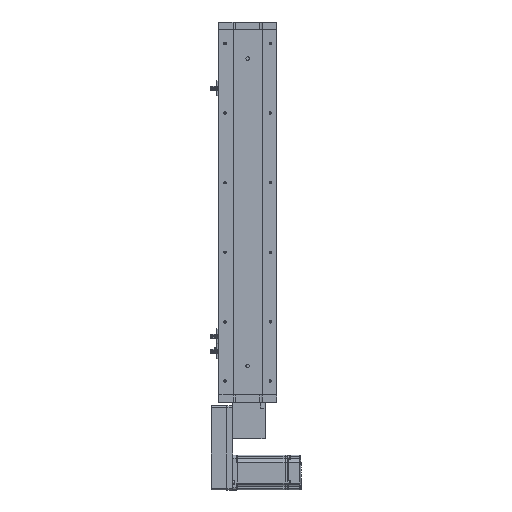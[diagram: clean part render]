
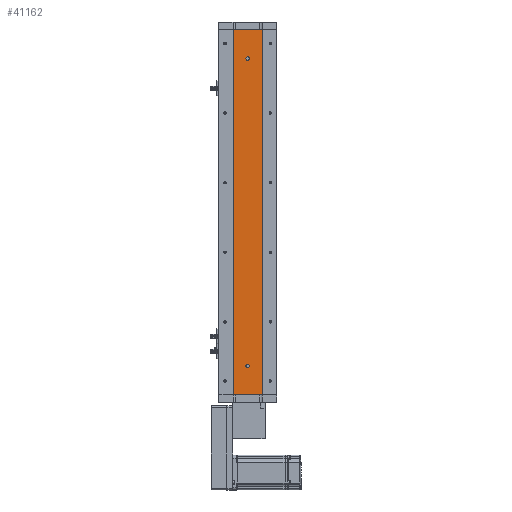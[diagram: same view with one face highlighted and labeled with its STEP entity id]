
A CAD part, left-side view. The second image highlights one B-rep face of the part: STEP entity #41162.
In plain terms, the highlighted planar face has unit normal (-1, 0, 0).
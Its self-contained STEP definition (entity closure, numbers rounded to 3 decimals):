
#302 = FACE_BOUND ( 'NONE', #63218, .T. ) ;
#2479 = CARTESIAN_POINT ( 'NONE',  ( -18.926, 0., 580. ) ) ;
#4601 = CARTESIAN_POINT ( 'NONE',  ( -18.926, 0., 577. ) ) ;
#6039 = CARTESIAN_POINT ( 'NONE',  ( -18.926, -24.785, 630. ) ) ;
#7432 = DIRECTION ( 'NONE',  ( 0., 0., 1. ) ) ;
#8044 = CIRCLE ( 'NONE', #35054, 3. ) ;
#8902 = CARTESIAN_POINT ( 'NONE',  ( -18.926, -24.785, 630. ) ) ;
#9004 = VERTEX_POINT ( 'NONE', #48292 ) ;
#9538 = EDGE_CURVE ( 'NONE', #58661, #9004, #18769, .T. ) ;
#10998 = CARTESIAN_POINT ( 'NONE',  ( -18.926, -24.785, 0. ) ) ;
#12134 = VERTEX_POINT ( 'NONE', #26313 ) ;
#12754 = VECTOR ( 'NONE', #16028, 1000. ) ;
#13037 = ORIENTED_EDGE ( 'NONE', *, *, #54193, .F. ) ;
#13505 = FACE_BOUND ( 'NONE', #14790, .T. ) ;
#14611 = DIRECTION ( 'NONE',  ( 0., -1., 0. ) ) ;
#14786 = AXIS2_PLACEMENT_3D ( 'NONE', #48503, #18764, #53485 ) ;
#14790 = EDGE_LOOP ( 'NONE', ( #56359, #36613 ) ) ;
#14814 = CARTESIAN_POINT ( 'NONE',  ( -18.926, 24.785, 630. ) ) ;
#15303 = CARTESIAN_POINT ( 'NONE',  ( -18.926, 0., 583. ) ) ;
#15576 = CIRCLE ( 'NONE', #53138, 3. ) ;
#16028 = DIRECTION ( 'NONE',  ( 0., 0., -1. ) ) ;
#18110 = EDGE_CURVE ( 'NONE', #9004, #36853, #28637, .T. ) ;
#18764 = DIRECTION ( 'NONE',  ( 1., 0., 0. ) ) ;
#18769 = LINE ( 'NONE', #62557, #30424 ) ;
#22392 = DIRECTION ( 'NONE',  ( -1., 0., 0. ) ) ;
#24498 = ORIENTED_EDGE ( 'NONE', *, *, #18110, .T. ) ;
#24979 = VERTEX_POINT ( 'NONE', #15303 ) ;
#25530 = DIRECTION ( 'NONE',  ( -1., 0., 0. ) ) ;
#26313 = CARTESIAN_POINT ( 'NONE',  ( -18.926, 0., 53. ) ) ;
#26357 = AXIS2_PLACEMENT_3D ( 'NONE', #56528, #26758, #61498 ) ;
#26673 = FACE_OUTER_BOUND ( 'NONE', #29717, .T. ) ;
#26758 = DIRECTION ( 'NONE',  ( -1., 0., 0. ) ) ;
#27052 = VECTOR ( 'NONE', #30596, 1000. ) ;
#27094 = AXIS2_PLACEMENT_3D ( 'NONE', #52104, #22392, #57098 ) ;
#27292 = VERTEX_POINT ( 'NONE', #52201 ) ;
#28127 = VERTEX_POINT ( 'NONE', #8902 ) ;
#28637 = LINE ( 'NONE', #60291, #27052 ) ;
#29717 = EDGE_LOOP ( 'NONE', ( #24498, #13037, #34224, #38410 ) ) ;
#30257 = VERTEX_POINT ( 'NONE', #4601 ) ;
#30424 = VECTOR ( 'NONE', #32842, 1000. ) ;
#30490 = EDGE_CURVE ( 'NONE', #12134, #27292, #56310, .T. ) ;
#30596 = DIRECTION ( 'NONE',  ( 0., -1., 0. ) ) ;
#32842 = DIRECTION ( 'NONE',  ( 0., 0., -1. ) ) ;
#34224 = ORIENTED_EDGE ( 'NONE', *, *, #55120, .F. ) ;
#35054 = AXIS2_PLACEMENT_3D ( 'NONE', #2479, #37170, #7432 ) ;
#36613 = ORIENTED_EDGE ( 'NONE', *, *, #38869, .F. ) ;
#36853 = VERTEX_POINT ( 'NONE', #10998 ) ;
#37170 = DIRECTION ( 'NONE',  ( -1., 0., 0. ) ) ;
#38410 = ORIENTED_EDGE ( 'NONE', *, *, #9538, .T. ) ;
#38869 = EDGE_CURVE ( 'NONE', #27292, #12134, #15576, .T. ) ;
#41162 = ADVANCED_FACE ( 'NONE', ( #13505, #302, #26673 ), #53261, .F. ) ;
#44730 = EDGE_CURVE ( 'NONE', #24979, #30257, #8044, .T. ) ;
#46616 = CIRCLE ( 'NONE', #26357, 3. ) ;
#47433 = LINE ( 'NONE', #14814, #53615 ) ;
#48292 = CARTESIAN_POINT ( 'NONE',  ( -18.926, 24.785, 0. ) ) ;
#48503 = CARTESIAN_POINT ( 'NONE',  ( -18.926, 24.785, 630. ) ) ;
#52104 = CARTESIAN_POINT ( 'NONE',  ( -18.926, 0., 50. ) ) ;
#52201 = CARTESIAN_POINT ( 'NONE',  ( -18.926, 0., 47. ) ) ;
#52373 = LINE ( 'NONE', #6039, #12754 ) ;
#53138 = AXIS2_PLACEMENT_3D ( 'NONE', #55267, #25530, #60264 ) ;
#53261 = PLANE ( 'NONE',  #14786 ) ;
#53485 = DIRECTION ( 'NONE',  ( 0., 0., -1. ) ) ;
#53615 = VECTOR ( 'NONE', #14611, 1000. ) ;
#54193 = EDGE_CURVE ( 'NONE', #28127, #36853, #52373, .T. ) ;
#55120 = EDGE_CURVE ( 'NONE', #58661, #28127, #47433, .T. ) ;
#55267 = CARTESIAN_POINT ( 'NONE',  ( -18.926, 0., 50. ) ) ;
#56310 = CIRCLE ( 'NONE', #27094, 3. ) ;
#56359 = ORIENTED_EDGE ( 'NONE', *, *, #30490, .F. ) ;
#56528 = CARTESIAN_POINT ( 'NONE',  ( -18.926, 0., 580. ) ) ;
#57098 = DIRECTION ( 'NONE',  ( 0., 0., 1. ) ) ;
#58049 = ORIENTED_EDGE ( 'NONE', *, *, #58286, .F. ) ;
#58286 = EDGE_CURVE ( 'NONE', #30257, #24979, #46616, .T. ) ;
#58661 = VERTEX_POINT ( 'NONE', #64271 ) ;
#60264 = DIRECTION ( 'NONE',  ( 0., 0., 1. ) ) ;
#60291 = CARTESIAN_POINT ( 'NONE',  ( -18.926, 24.785, 0. ) ) ;
#61498 = DIRECTION ( 'NONE',  ( 0., 0., 1. ) ) ;
#62557 = CARTESIAN_POINT ( 'NONE',  ( -18.926, 24.785, 630. ) ) ;
#63218 = EDGE_LOOP ( 'NONE', ( #64043, #58049 ) ) ;
#64043 = ORIENTED_EDGE ( 'NONE', *, *, #44730, .F. ) ;
#64271 = CARTESIAN_POINT ( 'NONE',  ( -18.926, 24.785, 630. ) ) ;
